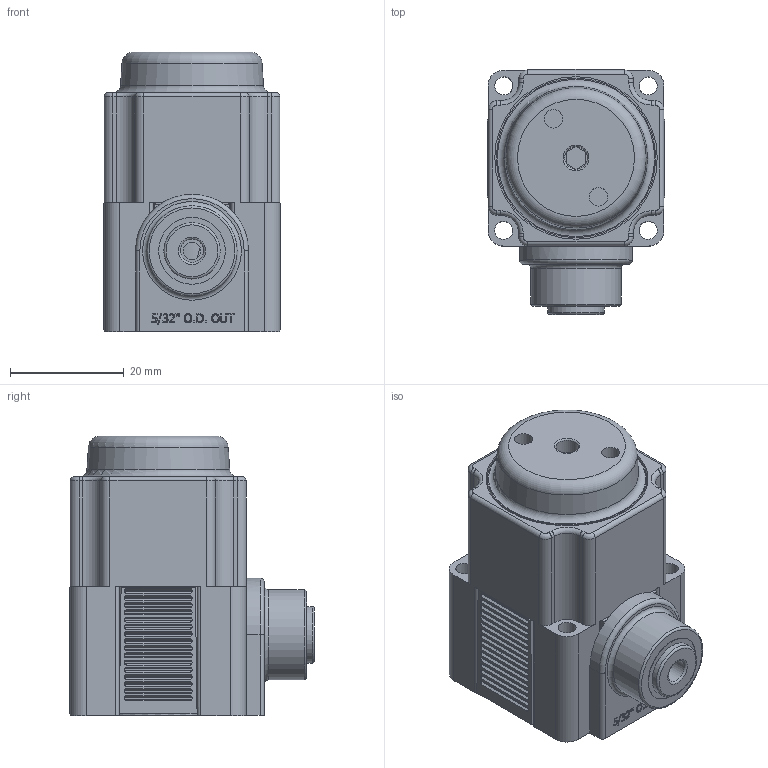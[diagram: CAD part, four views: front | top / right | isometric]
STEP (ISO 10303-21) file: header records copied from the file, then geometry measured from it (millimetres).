
FILE_DESCRIPTION(/* description */ (''),/* implementation_level */ '2;1');
FILE_NAME(/* name */ 'K:\Normteile INVENTOR\Air-Logic\Regulators\PR7000\PR 7___ 3 Push-In Fitting for 5''32 O.D. Tube Out.igs.ipt.stp',/* time_stamp */ '2020-05-27T10:53:59+02:00',/* author */ ('Paul'),/* organization */ (''),/* preprocessor_version */ 'ST-DEVELOPER v18',/* originating_system */ 'Autodesk Inventor 2020',/* authorisation */ '');
FILE_SCHEMA (('AUTOMOTIVE_DESIGN { 1 0 10303 214 3 1 1 }'));
Length unit declared in the file: inch
Products named in the file (1): PR 7___ 3 Push-In Fitting for 5'32 O.D. Tube Out.igs
Bounding box: 31.19 x 43.08 x 49.15 mm (x, y, z)
Volume: 41980.9 mm3; surface area: 13206.3 mm2
Topology: 1 solids, 1 shells, 753 faces, 1960 edges, 1284 vertices
Faces by surface type: plane 371, cylinder 253, bspline 103, torus 24, cone 2
Full cylindrical faces by diameter (mm): 3.073 x1, 3.175 x4, 3.226 x2, 4.013 x1, 4.089 x1, 6.045 x1, 9.169 x1, 9.398 x1, 9.906 x1, 11.735 x1, 12.903 x1, 15.85 x1, 26.264 x1, 28.047 x1, 28.575 x1
Entity records: 26214 total; most frequent: CARTESIAN_POINT 6959, ORIENTED_EDGE 3920, DIRECTION 3760, EDGE_CURVE 1960, AXIS2_PLACEMENT_3D 1413, VERTEX_POINT 1284, LINE 934, VECTOR 934
